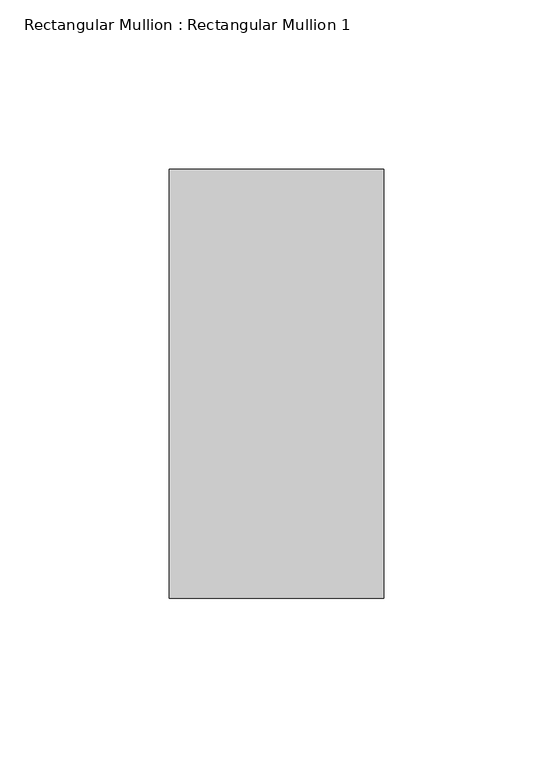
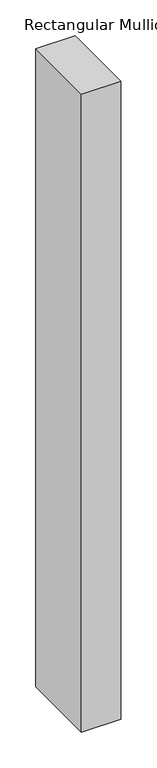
"""IFC4 building model written with IfcOpenShell, lengths in millimetres: member geometry, Rectangular Mullion : Rectangular Mullion 1."""

from ifc_helpers import new_model, si_unit, frame, origin, place, context, project, spatial, polyline, outline, extrude, source, transform, mapped, element, save


def rectangular_mullion_rectangular_mullion_1_16d8b8eb(model_context):
    return source(origin(), model_context, "Body", "SweptSolid", [
        extrude(outline(polyline([(31.75, 63.5), (31.75, -63.5), (-31.75, -63.5), (-31.75, 63.5), (31.75, 63.5)])), frame((0.0, 0.0, -1085.1812347), z_axis=(0.0, 0.0, 1.0), x_axis=(1.0, 0.0, 0.0)), (0.0, 0.0, 1.0), 1085.1812347),
    ])


if __name__ == "__main__":
    model = new_model("IFC4")
    model_context = context("Model", 3, world=origin())
    ifc_project = project(units=[si_unit("LENGTHUNIT", "METRE", prefix="MILLI")], contexts=[model_context])
    site = spatial("IfcSite", under=ifc_project)
    building = spatial("IfcBuilding", under=site)
    placement = place(None, origin())
    rectangular_mullion_rectangular_mullion_1_shape = rectangular_mullion_rectangular_mullion_1_16d8b8eb(model_context)
    element("IfcMember", 1, ObjectType="Rectangular Mullion : Rectangular Mullion 1", at=placement, inside=building, context=model_context, shape_type="MappedRepresentation", body=[
        mapped(rectangular_mullion_rectangular_mullion_1_shape, transform((0.0, 0.0, 0.0), x_axis=(1.0, 0.0, 0.0), y_axis=(0.0, 1.0, 0.0), z_axis=(0.0, 0.0, 1.0))),
    ])
    save(model, "model.ifc")
